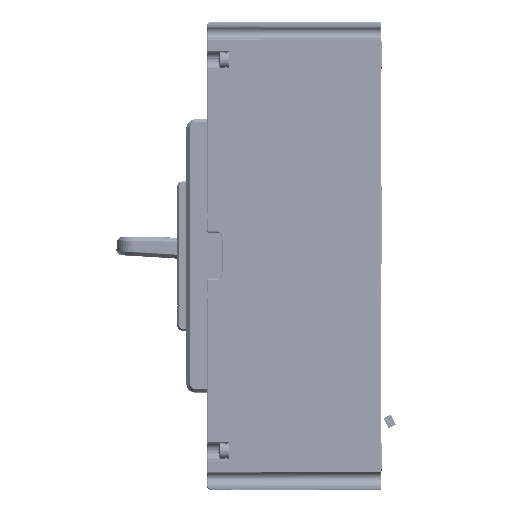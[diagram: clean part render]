
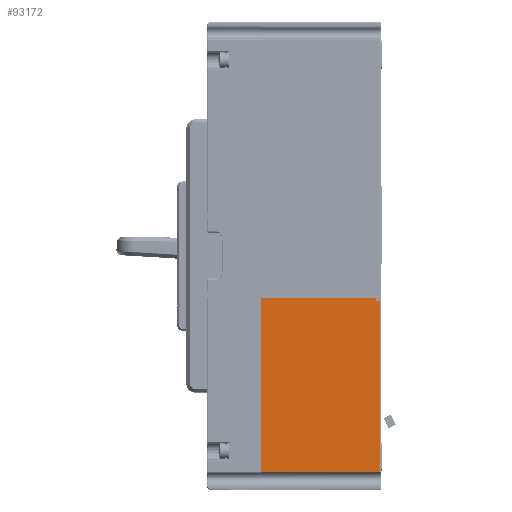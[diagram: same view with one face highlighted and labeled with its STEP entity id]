
A CAD part, top view. The second image highlights one B-rep face of the part: STEP entity #93172.
In plain terms, the highlighted planar face has unit normal (0, 0, 1) as drawn and (0, 0, -1) by its records, which use the part's own axes.
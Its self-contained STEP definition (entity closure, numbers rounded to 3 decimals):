
#11585=DIRECTION('',(-1.,0.,0.));
#11586=VECTOR('',#11585,93.783);
#11587=CARTESIAN_POINT('',(118.783,-44.4,-123.));
#11588=LINE('',#11587,#11586);
#11606=DIRECTION('',(0.,1.,0.));
#11607=VECTOR('',#11606,2.);
#11608=CARTESIAN_POINT('',(25.,-44.4,-123.));
#11609=LINE('',#11608,#11607);
#11618=DIRECTION('',(-1.,0.,0.));
#11619=VECTOR('',#11618,1.5);
#11620=CARTESIAN_POINT('',(25.,-42.4,-123.));
#11621=LINE('',#11620,#11619);
#28766=DIRECTION('',(0.,1.,0.));
#28767=VECTOR('',#28766,63.2);
#28768=CARTESIAN_POINT('',(23.5,-42.4,-123.));
#28769=LINE('',#28768,#28767);
#28778=DIRECTION('',(-1.,0.,0.));
#28779=VECTOR('',#28778,95.283);
#28780=CARTESIAN_POINT('',(118.783,20.8,-123.));
#28781=LINE('',#28780,#28779);
#28782=DIRECTION('',(0.,-1.,0.));
#28783=VECTOR('',#28782,65.2);
#28784=CARTESIAN_POINT('',(118.783,20.8,-123.));
#28785=LINE('',#28784,#28783);
#45777=CARTESIAN_POINT('',(23.5,20.8,-123.));
#45778=VERTEX_POINT('',#45777);
#45779=CARTESIAN_POINT('',(118.783,20.8,-123.));
#45780=VERTEX_POINT('',#45779);
#46377=CARTESIAN_POINT('',(25.,-44.4,-123.));
#46378=VERTEX_POINT('',#46377);
#46379=CARTESIAN_POINT('',(118.783,-44.4,-123.));
#46380=VERTEX_POINT('',#46379);
#46382=CARTESIAN_POINT('',(25.,-42.4,-123.));
#46384=VERTEX_POINT('',#46382);
#46389=CARTESIAN_POINT('',(23.5,-42.4,-123.));
#46390=VERTEX_POINT('',#46389);
#93158=CARTESIAN_POINT('',(0.,0.,-123.));
#93159=DIRECTION('',(0.,0.,1.));
#93160=DIRECTION('',(1.,0.,0.));
#93161=AXIS2_PLACEMENT_3D('',#93158,#93159,#93160);
#93162=PLANE('',#93161);
#93163=ORIENTED_EDGE('',*,*,#68227,.F.);
#93165=ORIENTED_EDGE('',*,*,#93164,.F.);
#93166=ORIENTED_EDGE('',*,*,#66915,.T.);
#93167=ORIENTED_EDGE('',*,*,#93150,.F.);
#93168=ORIENTED_EDGE('',*,*,#68261,.F.);
#93169=ORIENTED_EDGE('',*,*,#68248,.F.);
#93170=EDGE_LOOP('',(#93163,#93165,#93166,#93167,#93168,#93169));
#93171=FACE_OUTER_BOUND('',#93170,.F.);
#93172=ADVANCED_FACE('',(#93171),#93162,.F.);
#66915=EDGE_CURVE('',#45780,#45778,#28781,.T.);
#68227=EDGE_CURVE('',#46380,#46378,#11588,.T.);
#68248=EDGE_CURVE('',#46378,#46384,#11609,.T.);
#68261=EDGE_CURVE('',#46384,#46390,#11621,.T.);
#93150=EDGE_CURVE('',#46390,#45778,#28769,.T.);
#93164=EDGE_CURVE('',#45780,#46380,#28785,.T.);
